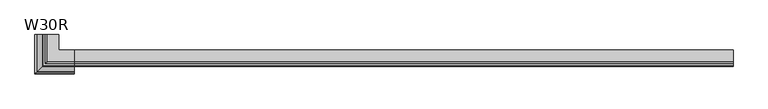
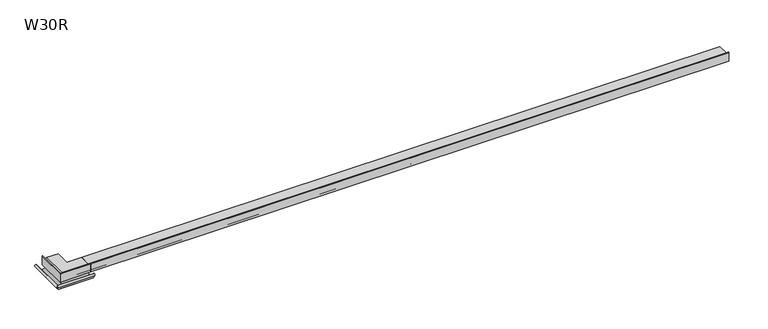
"""IFC4 building model written with IfcOpenShell, lengths in millimetres: proxy geometry, W30R Profil okapowy prosty z rynną : W30R."""

from ifc_helpers import new_model, si_unit, point, frame, frame_2d, origin, place, context, project, spatial, polyline, circle_curve, ellipse_curve, trimmed, segment, composite_curve, outline, extrude, source, transform, mapped, element, save
from ifc_brep_helpers import plane_surface, cylinder_surface, revolved_surface, advanced_brep


def w30r_1e472981(model_context):
    return source(origin(), model_context, "Body", "SolidModel", [
        advanced_brep(
        [(220.0, -43.2400001, -67.3590487), (220.0, 31.76, -67.3590487), (220.0, 33.76, -48.466163), (220.0, 28.3457864, -49.051942), (220.0, 23.0301532, -54.3675752), (220.0, 23.73726, -55.074682), (220.0, 28.8610307, -49.9509113), (220.0, 32.6506561, -49.4483099), (220.0, 30.7599916, -67.3415731), (220.0, -42.2400118, -67.3415731), (220.0, -42.2400118, -57.8161631), (220.0, -52.4076128, -63.5045042), (220.0, -52.4076128, -62.3703774), (220.0, -43.2400001, -57.765002), (-43.2400001, 220.0, -67.3590487), (-43.2400001, 220.0, -57.765002), (-52.4076128, 220.0, -62.3703774), (-52.4076128, 220.0, -63.5045042), (-42.2400118, 220.0, -57.8161631), (-42.2400118, 220.0, -67.3415731), (30.7599916, 220.0, -67.3415731), (32.6506561, 220.0, -49.4483099), (28.8610307, 220.0, -49.9509113), (23.73726, 220.0, -55.074682), (23.0301532, 220.0, -54.3675752), (28.3457864, 220.0, -49.051942), (33.76, 220.0, -48.466163), (31.76, 220.0, -67.3590487), (-43.2400001, -43.2400001, -67.3590487), (31.76, 31.76, -67.3590487), (33.76, 33.76, -48.466163), (28.3457864, 28.3457864, -49.051942), (23.0301532, 23.0301532, -54.3675752), (23.73726, 23.73726, -55.074682), (28.8610307, 28.8610307, -49.9509113), (32.6506561, 32.6506561, -49.4483099), (30.7599916, 30.7599916, -67.3415731), (-42.2400118, -42.2400118, -67.3415731), (-42.2400118, -42.2400118, -57.8161631), (-52.4076128, -52.4076128, -63.5045042), (-52.4076128, -52.4076128, -62.3703774), (-43.2400001, -43.2400001, -57.765002)],
        [
            (0, 1, circle_curve(frame((220.0, -5.74, -67.3590487), z_axis=(1.0, 0.0, 0.0), x_axis=(0.0, -1.0, 0.0)), 37.5)),
            (1, 2),
            (2, 3, circle_curve(frame((220.0, 32.9206631, -66.0223975), z_axis=(1.0, 0.0, 0.0), x_axis=(0.0, -1.0, 0.0)), 17.5762868)),
            (3, 4),
            (4, 5),
            (5, 6),
            (6, 7, circle_curve(frame((220.0, 32.9206631, -66.0223975), z_axis=(-1.0, 0.0, 0.0), x_axis=(0.0, -1.0, 0.0)), 16.5762868)),
            (7, 8),
            (8, 9, circle_curve(frame((220.0, -5.7400101, -67.3415731), z_axis=(-1.0, 0.0, 0.0), x_axis=(0.0, -1.0, 0.0)), 36.5000017)),
            (9, 10),
            (10, 11, circle_curve(frame((220.0, -49.3055965, -57.118002), z_axis=(1.0, 0.0, 0.0), x_axis=(0.0, -1.0, 0.0)), 7.0999941)),
            (11, 12),
            (12, 13, circle_curve(frame((220.0, -49.305591, -57.1180003), z_axis=(-1.0, 0.0, 0.0), x_axis=(0.0, -1.0, 0.0)), 6.1000004)),
            (13, 0),
            (14, 15),
            (15, 16, circle_curve(frame((-49.305591, 220.0, -57.1180003), z_axis=(0.0, -1.0, 0.0), x_axis=(-1.0, 0.0, 0.0)), 6.1000004)),
            (16, 17),
            (17, 18, circle_curve(frame((-49.3055965, 220.0, -57.118002), z_axis=(0.0, 1.0, 0.0), x_axis=(-1.0, 0.0, 0.0)), 7.0999941)),
            (18, 19),
            (19, 20, circle_curve(frame((-5.7400101, 220.0, -67.3415731), z_axis=(0.0, -1.0, 0.0), x_axis=(-1.0, 0.0, 0.0)), 36.5000017)),
            (20, 21),
            (21, 22, circle_curve(frame((32.9206631, 220.0, -66.0223975), z_axis=(0.0, -1.0, 0.0), x_axis=(-1.0, 0.0, 0.0)), 16.5762868)),
            (22, 23),
            (23, 24),
            (24, 25),
            (25, 26, circle_curve(frame((32.9206631, 220.0, -66.0223975), z_axis=(0.0, 1.0, 0.0), x_axis=(-1.0, 0.0, 0.0)), 17.5762868)),
            (26, 27),
            (27, 14, circle_curve(frame((-5.74, 220.0, -67.3590487), z_axis=(0.0, 1.0, 0.0), x_axis=(-1.0, 0.0, 0.0)), 37.5)),
            (0, 28),
            (28, 29, ellipse_curve(frame((-5.74, -5.74, -67.3590487), z_axis=(0.7071067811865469, -0.7071067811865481, 0.0), x_axis=(0.7071067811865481, 0.7071067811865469, 0.0)), 53.0330086, 37.5)),
            (29, 1),
            (29, 30),
            (30, 2),
            (30, 31, ellipse_curve(frame((32.9206631, 32.9206631, -66.0223975), z_axis=(0.7071067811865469, -0.7071067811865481, 0.0), x_axis=(0.7071067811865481, 0.7071067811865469, 0.0)), 24.8566232, 17.5762868)),
            (31, 3),
            (31, 32),
            (32, 4),
            (32, 33),
            (33, 5),
            (33, 34),
            (34, 6),
            (34, 35, ellipse_curve(frame((32.9206631, 32.9206631, -66.0223975), z_axis=(-0.7071067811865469, 0.7071067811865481, 0.0), x_axis=(-0.7071067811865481, -0.7071067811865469, 0.0)), 23.4424096, 16.5762868)),
            (35, 7),
            (35, 36),
            (36, 8),
            (36, 37, ellipse_curve(frame((-5.7400101, -5.7400101, -67.3415731), z_axis=(-0.7071067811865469, 0.7071067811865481, 0.0), x_axis=(-0.7071067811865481, -0.7071067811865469, 0.0)), 51.6187974, 36.5000017)),
            (37, 9),
            (37, 38),
            (38, 10),
            (38, 39, ellipse_curve(frame((-49.3055965, -49.3055965, -57.118002), z_axis=(0.7071067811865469, -0.7071067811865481, 0.0), x_axis=(0.7071067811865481, 0.7071067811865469, 0.0)), 10.0409079, 7.0999941)),
            (39, 11),
            (39, 40),
            (40, 12),
            (40, 41, ellipse_curve(frame((-49.305591, -49.305591, -57.1180003), z_axis=(-0.7071067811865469, 0.7071067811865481, 0.0), x_axis=(-0.7071067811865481, -0.7071067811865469, 0.0)), 8.6267032, 6.1000004)),
            (41, 13),
            (41, 28),
            (28, 14),
            (27, 29),
            (26, 30),
            (25, 31),
            (24, 32),
            (23, 33),
            (22, 34),
            (21, 35),
            (20, 36),
            (19, 37),
            (18, 38),
            (17, 39),
            (16, 40),
            (15, 41),
        ],
        [
            plane_surface(frame((220.0, 0.0, 0.0), z_axis=(1.0, 0.0, 0.0), x_axis=(0.0, 0.0, 1.0))),
            plane_surface(frame((0.0, 220.0, 0.0), z_axis=(0.0, 1.0, 0.0), x_axis=(0.0, 0.0, 1.0))),
            cylinder_surface(frame((220.0, -5.74, -67.3590487), z_axis=(1.0, 0.0, 0.0), x_axis=(0.0, -1.0, 0.0)), 37.5),
            plane_surface(frame((220.0, 31.76, -67.3590487), z_axis=(0.0, 0.9944434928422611, -0.10527174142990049), x_axis=(-1.0, 0.0, 0.0))),
            cylinder_surface(frame((220.0, 32.9206631, -66.0223975), z_axis=(1.0, 0.0, 0.0), x_axis=(0.0, -1.0, 0.0)), 17.5762868),
            plane_surface(frame((220.0, 28.3457864, -49.051942), z_axis=(0.0, -0.7071067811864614, 0.7071067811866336), x_axis=(-1.0, 0.0, 0.0))),
            plane_surface(frame((220.0, 23.0301532, -54.3675752), z_axis=(0.0, -0.7071067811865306, -0.7071067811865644), x_axis=(-1.0, 0.0, 0.0))),
            plane_surface(frame((220.0, 23.73726, -55.074682), z_axis=(0.0, 0.7071067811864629, -0.7071067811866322), x_axis=(-1.0, 0.0, 0.0))),
            revolved_surface(polyline([(16.344376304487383, 16.3443763, -66.0223975), (220.0, 16.3443763, -66.0223975)]), (220.0, 32.9206631, -66.0223975), (-1.0, 0.0, 0.0)),
            plane_surface(frame((220.0, 32.6506561, -49.4483099), z_axis=(0.0, -0.994463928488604, 0.10507851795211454), x_axis=(-1.0, 0.0, 0.0))),
            revolved_surface(polyline([(-42.24001179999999, -42.2400118, -67.3415731), (220.0, -42.2400118, -67.3415731)]), (220.0, -5.7400101, -67.3415731), (-1.0, 0.0, 0.0)),
            plane_surface(frame((220.0, -42.2400118, -67.3415731), z_axis=(0.0, 1.0, 0.0), x_axis=(-1.0, 0.0, 0.0))),
            cylinder_surface(frame((220.0, -49.3055965, -57.118002), z_axis=(1.0, 0.0, 0.0), x_axis=(0.0, -1.0, 0.0)), 7.0999941),
            plane_surface(frame((220.0, -52.4076128, -63.5045042), z_axis=(0.0, 1.0, 0.0), x_axis=(-1.0, 0.0, 0.0))),
            revolved_surface(polyline([(-55.40559133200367, -55.4055914, -57.1180003), (220.0, -55.4055914, -57.1180003)]), (220.0, -49.305591, -57.1180003), (-1.0, 0.0, 0.0)),
            plane_surface(frame((220.0, -43.2400001, -57.765002), z_axis=(0.0, -1.0, 0.0), x_axis=(-1.0, 0.0, 0.0))),
            cylinder_surface(frame((-5.74, 0.0, -67.3590487), z_axis=(0.0, -1.0, 0.0), x_axis=(-1.0, 0.0, 0.0)), 37.5),
            plane_surface(frame((31.76, 31.76, -67.3590487), z_axis=(0.9944434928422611, 0.0, -0.10527174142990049), x_axis=(0.0, 1.0, 0.0))),
            cylinder_surface(frame((32.9206631, 0.0, -66.0223975), z_axis=(0.0, -1.0, 0.0), x_axis=(-1.0, 0.0, 0.0)), 17.5762868),
            plane_surface(frame((28.3457864, 28.3457864, -49.051942), z_axis=(-0.7071067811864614, 0.0, 0.7071067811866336), x_axis=(0.0, 1.0, 0.0))),
            plane_surface(frame((23.0301532, 23.0301532, -54.3675752), z_axis=(-0.7071067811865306, 0.0, -0.7071067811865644), x_axis=(0.0, 1.0, 0.0))),
            plane_surface(frame((23.73726, 23.73726, -55.074682), z_axis=(0.7071067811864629, 0.0, -0.7071067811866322), x_axis=(0.0, 1.0, 0.0))),
            revolved_surface(polyline([(16.3443763, 220.0, -66.0223975), (16.3443763, 16.34437630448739, -66.0223975)]), (32.9206631, 0.0, -66.0223975), (0.0, 1.0, 0.0)),
            plane_surface(frame((32.6506561, 32.6506561, -49.4483099), z_axis=(-0.994463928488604, 0.0, 0.10507851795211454), x_axis=(0.0, 1.0, 0.0))),
            revolved_surface(polyline([(-42.2400118, 220.0, -67.3415731), (-42.2400118, -42.2400118, -67.3415731)]), (-5.7400101, 0.0, -67.3415731), (0.0, 1.0, 0.0)),
            plane_surface(frame((-42.2400118, -42.2400118, -67.3415731), z_axis=(1.0, 0.0, 0.0), x_axis=(0.0, 1.0, 0.0))),
            cylinder_surface(frame((-49.3055965, 0.0, -57.118002), z_axis=(0.0, -1.0, 0.0), x_axis=(-1.0, 0.0, 0.0)), 7.0999941),
            plane_surface(frame((-52.4076128, -52.4076128, -63.5045042), z_axis=(1.0, 0.0, 0.0), x_axis=(0.0, 1.0, 0.0))),
            revolved_surface(polyline([(-55.4055914, 220.0, -57.1180003), (-55.4055914, -55.40559133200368, -57.1180003)]), (-49.305591, 0.0, -57.1180003), (0.0, 1.0, 0.0)),
            plane_surface(frame((-43.2400001, -43.2400001, -57.765002), z_axis=(-1.0, 0.0, 0.0), x_axis=(0.0, 1.0, 0.0))),
        ],
        [
            (0, [[1, 2, 3, 4, 5, 6, 7, 8, 9, 10, 11, 12, 13, 14]]),
            (1, [[15, 16, 17, 18, 19, 20, 21, 22, 23, 24, 25, 26, 27, 28]]),
            (2, [[-1, 29, 30, 31]]),
            (3, [[-2, -31, 32, 33]]),
            (4, [[-3, -33, 34, 35]]),
            (5, [[-4, -35, 36, 37]]),
            (6, [[-5, -37, 38, 39]]),
            (7, [[-6, -39, 40, 41]]),
            (8, [[-7, -41, 42, 43]]),
            (9, [[-8, -43, 44, 45]]),
            (10, [[-9, -45, 46, 47]]),
            (11, [[-10, -47, 48, 49]]),
            (12, [[-11, -49, 50, 51]]),
            (13, [[-12, -51, 52, 53]]),
            (14, [[-13, -53, 54, 55]]),
            (15, [[-14, -55, 56, -29]]),
            (16, [[-30, 57, -28, 58]]),
            (17, [[-32, -58, -27, 59]]),
            (18, [[-34, -59, -26, 60]]),
            (19, [[-36, -60, -25, 61]]),
            (20, [[-38, -61, -24, 62]]),
            (21, [[-40, -62, -23, 63]]),
            (22, [[-42, -63, -22, 64]]),
            (23, [[-44, -64, -21, 65]]),
            (24, [[-46, -65, -20, 66]]),
            (25, [[-48, -66, -19, 67]]),
            (26, [[-50, -67, -18, 68]]),
            (27, [[-52, -68, -17, 69]]),
            (28, [[-54, -69, -16, 70]]),
            (29, [[-56, -70, -15, -57]]),
        ],
    ),
        advanced_brep(
        [(220.0, 41.76, -66.726163), (220.0, 43.76, -66.726163), (220.0, 43.76, -63.126163), (220.0, 48.96, -63.126163), (220.0, 48.96, -74.326163), (220.0, 43.76, -74.326163), (220.0, 43.76, -70.726163), (220.0, 41.76, -70.726163), (220.0, 41.76, -97.190163), (220.0, 43.04, -97.190163), (220.0, 43.04, -75.526163), (220.0, 50.32, -75.526163), (220.0, 50.32, -61.926163), (220.0, 43.12, -61.926163), (220.0, 43.12, -25.926163), (220.0, 111.68, -25.926163), (220.0, 111.68, -24.006163), (220.0, 31.36, -24.006163), (220.0, 17.76, -37.606163), (220.0, 17.76, -49.846163), (220.0, -0.8, -49.846163), (220.0, -0.8, -2.2327357), (220.0, 0.0, -1.4327357), (220.0, 0.0, 0.0), (220.0, -2.24, -2.24), (220.0, -2.24, -66.416302), (220.0, -1.04, -65.216302), (220.0, -1.04, -51.766163), (220.0, 17.76, -51.766163), (220.0, 17.76, -55.0930368), (220.0, 19.68, -55.0930368), (220.0, 19.68, -37.606163), (220.0, 31.36, -25.926163), (220.0, 41.76, -25.926163), (41.76, 220.0, -66.726163), (41.76, 220.0, -25.926163), (31.36, 220.0, -25.926163), (19.68, 220.0, -37.606163), (19.68, 220.0, -55.0930368), (17.76, 220.0, -55.0930368), (17.76, 220.0, -51.766163), (-1.04, 220.0, -51.766163), (-1.04, 220.0, -65.216302), (-2.24, 220.0, -66.416302), (-2.24, 220.0, -2.24), (0.0, 220.0, 0.0), (0.0, 220.0, -1.4327357), (-0.8, 220.0, -2.2327357), (-0.8, 220.0, -49.846163), (17.76, 220.0, -49.846163), (17.76, 220.0, -37.606163), (31.36, 220.0, -24.006163), (111.68, 220.0, -24.006163), (111.68, 220.0, -25.926163), (43.12, 220.0, -25.926163), (43.12, 220.0, -61.926163), (50.32, 220.0, -61.926163), (50.32, 220.0, -75.526163), (43.04, 220.0, -75.526163), (43.04, 220.0, -97.190163), (41.76, 220.0, -97.190163), (41.76, 220.0, -70.726163), (43.76, 220.0, -70.726163), (43.76, 220.0, -74.326163), (48.96, 220.0, -74.326163), (48.96, 220.0, -63.126163), (43.76, 220.0, -63.126163), (43.76, 220.0, -66.726163), (50.32, 50.32, -61.926163), (43.12, 43.12, -61.926163), (-2.24, -2.24, -66.416302), (-1.04, -1.04, -65.216302), (43.12, 43.12, -25.926163), (111.68, 111.68, -25.926163), (111.68, 111.68, -24.006163), (41.76, 41.76, -70.726163), (41.76, 41.76, -97.190163), (43.04, 43.04, -97.190163), (43.04, 43.04, -75.526163), (43.76, 43.76, -74.326163), (43.76, 43.76, -70.726163), (48.96, 48.96, -74.326163), (48.96, 48.96, -63.126163), (43.76, 43.76, -63.126163), (43.76, 43.76, -66.726163), (41.76, 41.76, -66.726163), (50.32, 50.32, -75.526163), (31.36, 31.36, -24.006163), (17.76, 17.76, -37.606163), (17.76, 17.76, -49.846163), (-0.8, -0.8, -49.846163), (-0.8, -0.8, -2.2327357), (0.0, 0.0, -1.4327357), (0.0, 0.0, 0.0), (-2.24, -2.24, -2.24), (-1.04, -1.04, -51.766163), (17.76, 17.76, -51.766163), (17.76, 17.76, -55.0930368), (19.68, 19.68, -55.0930368), (19.68, 19.68, -37.606163), (31.36, 31.36, -25.926163), (41.76, 41.76, -25.926163)],
        [
            (0, 1),
            (1, 2),
            (2, 3),
            (3, 4),
            (4, 5),
            (5, 6),
            (6, 7),
            (7, 8),
            (8, 9),
            (9, 10),
            (10, 11),
            (11, 12),
            (12, 13),
            (13, 14),
            (14, 15),
            (15, 16),
            (16, 17),
            (17, 18, circle_curve(frame((220.0, 31.36, -37.606163), z_axis=(1.0, 0.0, 0.0), x_axis=(0.0, -1.0, 0.0)), 13.6)),
            (18, 19),
            (19, 20),
            (20, 21),
            (21, 22, circle_curve(frame((220.0, 0.0, -2.2327357), z_axis=(-1.0, 0.0, 0.0), x_axis=(0.0, -1.0, 0.0)), 0.8)),
            (22, 23),
            (23, 24, circle_curve(frame((220.0, 0.0, -2.24), z_axis=(1.0, 0.0, 0.0), x_axis=(0.0, -1.0, 0.0)), 2.24)),
            (24, 25),
            (25, 26),
            (26, 27),
            (27, 28),
            (28, 29),
            (29, 30),
            (30, 31),
            (31, 32, circle_curve(frame((220.0, 31.36, -37.606163), z_axis=(-1.0, 0.0, 0.0), x_axis=(0.0, -1.0, 0.0)), 11.68)),
            (32, 33),
            (33, 0),
            (34, 35),
            (35, 36),
            (36, 37, circle_curve(frame((31.36, 220.0, -37.606163), z_axis=(0.0, -1.0, 0.0), x_axis=(-1.0, 0.0, 0.0)), 11.68)),
            (37, 38),
            (38, 39),
            (39, 40),
            (40, 41),
            (41, 42),
            (42, 43),
            (43, 44),
            (44, 45, circle_curve(frame((0.0, 220.0, -2.24), z_axis=(0.0, 1.0, 0.0), x_axis=(-1.0, 0.0, 0.0)), 2.24)),
            (45, 46),
            (46, 47, circle_curve(frame((0.0, 220.0, -2.2327357), z_axis=(0.0, -1.0, 0.0), x_axis=(-1.0, 0.0, 0.0)), 0.8)),
            (47, 48),
            (48, 49),
            (49, 50),
            (50, 51, circle_curve(frame((31.36, 220.0, -37.606163), z_axis=(0.0, 1.0, 0.0), x_axis=(-1.0, 0.0, 0.0)), 13.6)),
            (51, 52),
            (52, 53),
            (53, 54),
            (54, 55),
            (55, 56),
            (56, 57),
            (57, 58),
            (58, 59),
            (59, 60),
            (60, 61),
            (61, 62),
            (62, 63),
            (63, 64),
            (64, 65),
            (65, 66),
            (66, 67),
            (67, 34),
            (12, 68),
            (68, 56),
            (55, 69),
            (69, 13),
            (25, 70),
            (70, 71),
            (71, 26),
            (14, 72),
            (72, 54),
            (53, 73),
            (73, 15),
            (73, 74),
            (74, 16),
            (69, 72),
            (7, 75),
            (75, 76),
            (76, 8),
            (76, 60),
            (59, 77),
            (77, 9),
            (77, 78),
            (78, 10),
            (5, 79),
            (79, 80),
            (80, 6),
            (80, 62),
            (61, 75),
            (4, 81),
            (81, 64),
            (63, 79),
            (3, 82),
            (82, 81),
            (2, 83),
            (83, 66),
            (65, 82),
            (1, 84),
            (84, 83),
            (70, 43),
            (42, 71),
            (52, 74),
            (58, 78),
            (84, 67),
            (0, 85),
            (85, 34),
            (57, 86),
            (86, 11),
            (86, 68),
            (51, 87),
            (87, 17),
            (87, 88, ellipse_curve(frame((31.36, 31.36, -37.606163), z_axis=(0.7071067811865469, -0.7071067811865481, 0.0), x_axis=(0.7071067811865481, 0.7071067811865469, 0.0)), 19.2333044, 13.6)),
            (88, 18),
            (88, 89),
            (89, 19),
            (89, 49),
            (48, 90),
            (90, 20),
            (90, 91),
            (91, 21),
            (91, 92, ellipse_curve(frame((0.0, 0.0, -2.2327357), z_axis=(-0.7071067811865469, 0.7071067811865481, 0.0), x_axis=(-0.7071067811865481, -0.7071067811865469, 0.0)), 1.1313708, 0.8)),
            (92, 22),
            (92, 93),
            (93, 23),
            (93, 94, ellipse_curve(frame((0.0, 0.0, -2.24), z_axis=(0.7071067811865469, -0.7071067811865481, 0.0), x_axis=(0.7071067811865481, 0.7071067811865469, 0.0)), 3.1678384, 2.24)),
            (94, 24),
            (94, 70),
            (71, 95),
            (95, 27),
            (95, 41),
            (40, 96),
            (96, 28),
            (96, 97),
            (97, 29),
            (97, 39),
            (38, 98),
            (98, 30),
            (98, 99),
            (99, 31),
            (99, 100, ellipse_curve(frame((31.36, 31.36, -37.606163), z_axis=(-0.7071067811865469, 0.7071067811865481, 0.0), x_axis=(-0.7071067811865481, -0.7071067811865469, 0.0)), 16.5180144, 11.68)),
            (100, 32),
            (100, 36),
            (35, 101),
            (101, 33),
            (101, 85),
            (50, 88),
            (47, 91),
            (46, 92),
            (45, 93),
            (44, 94),
            (37, 99),
        ],
        [
            plane_surface(frame((220.0, 0.0, 0.0), z_axis=(1.0, 0.0, 0.0), x_axis=(0.0, 0.0, 1.0))),
            plane_surface(frame((0.0, 220.0, 0.0), z_axis=(0.0, 1.0, 0.0), x_axis=(0.0, 0.0, 1.0))),
            plane_surface(frame((220.0, 50.32, -61.926163), z_axis=(0.0, 0.0, 1.0), x_axis=(-1.0, 0.0, 0.0))),
            plane_surface(frame((220.0, -2.24, -66.416302), z_axis=(0.0, 0.7071067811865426, -0.7071067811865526), x_axis=(-1.0, 0.0, 0.0))),
            plane_surface(frame((220.0, 43.12, -25.926163), z_axis=(0.0, 0.0, -1.0), x_axis=(-1.0, 0.0, 0.0))),
            plane_surface(frame((220.0, 111.68, -25.926163), z_axis=(0.0, 1.0, 0.0), x_axis=(-1.0, 0.0, 0.0))),
            plane_surface(frame((220.0, 43.12, -61.926163), z_axis=(0.0, 1.0, 0.0), x_axis=(-1.0, 0.0, 0.0))),
            plane_surface(frame((220.0, 41.76, -70.726163), z_axis=(0.0, -1.0, 0.0), x_axis=(-1.0, 0.0, 0.0))),
            plane_surface(frame((220.0, 41.76, -97.190163), z_axis=(0.0, 0.0, -1.0), x_axis=(-1.0, 0.0, 0.0))),
            plane_surface(frame((220.0, 43.04, -97.190163), z_axis=(0.0, 1.0, 0.0), x_axis=(-1.0, 0.0, 0.0))),
            plane_surface(frame((220.0, 43.76, -74.326163), z_axis=(0.0, 1.0, 0.0), x_axis=(-1.0, 0.0, 0.0))),
            plane_surface(frame((220.0, 43.76, -70.726163), z_axis=(0.0, 0.0, 1.0), x_axis=(-1.0, 0.0, 0.0))),
            plane_surface(frame((220.0, 48.96, -74.326163), z_axis=(0.0, 0.0, 1.0), x_axis=(-1.0, 0.0, 0.0))),
            plane_surface(frame((220.0, 48.96, -63.126163), z_axis=(0.0, -1.0, 0.0), x_axis=(-1.0, 0.0, 0.0))),
            plane_surface(frame((220.0, 43.76, -63.126163), z_axis=(0.0, 0.0, -1.0), x_axis=(-1.0, 0.0, 0.0))),
            plane_surface(frame((220.0, 43.76, -66.726163), z_axis=(0.0, 1.0, 0.0), x_axis=(-1.0, 0.0, 0.0))),
            plane_surface(frame((-2.24, -2.24, -66.416302), z_axis=(0.7071067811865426, 0.0, -0.7071067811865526), x_axis=(0.0, 1.0, 0.0))),
            plane_surface(frame((111.68, 111.68, -25.926163), z_axis=(1.0, 0.0, 0.0), x_axis=(0.0, 1.0, 0.0))),
            plane_surface(frame((43.12, 43.12, -61.926163), z_axis=(1.0, 0.0, 0.0), x_axis=(0.0, 1.0, 0.0))),
            plane_surface(frame((41.76, 41.76, -70.726163), z_axis=(-1.0, 0.0, 0.0), x_axis=(0.0, 1.0, 0.0))),
            plane_surface(frame((43.04, 43.04, -97.190163), z_axis=(1.0, 0.0, 0.0), x_axis=(0.0, 1.0, 0.0))),
            plane_surface(frame((48.96, 48.96, -63.126163), z_axis=(-1.0, 0.0, 0.0), x_axis=(0.0, 1.0, 0.0))),
            plane_surface(frame((43.76, 43.76, -66.726163), z_axis=(1.0, 0.0, 0.0), x_axis=(0.0, 1.0, 0.0))),
            plane_surface(frame((43.76, 43.76, -74.326163), z_axis=(1.0, 0.0, 0.0), x_axis=(0.0, 1.0, 0.0))),
            plane_surface(frame((220.0, 41.76, -66.726163), z_axis=(0.0, 0.0, -1.0), x_axis=(-1.0, 0.0, 0.0))),
            plane_surface(frame((220.0, 43.04, -75.526163), z_axis=(0.0, 0.0, -1.0), x_axis=(-1.0, 0.0, 0.0))),
            plane_surface(frame((220.0, 50.32, -75.526163), z_axis=(0.0, 1.0, 0.0), x_axis=(-1.0, 0.0, 0.0))),
            plane_surface(frame((220.0, 111.68, -24.006163), z_axis=(0.0, 0.0, 1.0), x_axis=(-1.0, 0.0, 0.0))),
            cylinder_surface(frame((220.0, 31.36, -37.606163), z_axis=(1.0, 0.0, 0.0), x_axis=(0.0, -1.0, 0.0)), 13.6),
            plane_surface(frame((220.0, 17.76, -37.606163), z_axis=(0.0, -1.0, 0.0), x_axis=(-1.0, 0.0, 0.0))),
            plane_surface(frame((220.0, 17.76, -49.846163), z_axis=(0.0, 0.0, 1.0), x_axis=(-1.0, 0.0, 0.0))),
            plane_surface(frame((220.0, -0.8, -4.4219732), z_axis=(0.0, 1.0, 0.0), x_axis=(-1.0, 0.0, 0.0))),
            revolved_surface(polyline([(-0.8000000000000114, -0.8, -2.2327357), (220.0, -0.8, -2.2327357)]), (220.0, 0.0, -2.2327357), (-1.0, 0.0, 0.0)),
            plane_surface(frame((220.0, 0.0, -1.4327357), z_axis=(0.0, 1.0, 0.0), x_axis=(-1.0, 0.0, 0.0))),
            cylinder_surface(frame((220.0, 0.0, -2.24), z_axis=(1.0, 0.0, 0.0), x_axis=(0.0, -1.0, 0.0)), 2.24),
            plane_surface(frame((220.0, -2.24, -2.24), z_axis=(0.0, -1.0, 0.0), x_axis=(-1.0, 0.0, 0.0))),
            plane_surface(frame((220.0, -1.04, -65.216302), z_axis=(0.0, 1.0, 0.0), x_axis=(-1.0, 0.0, 0.0))),
            plane_surface(frame((220.0, -1.04, -51.766163), z_axis=(0.0, 0.0, -1.0), x_axis=(-1.0, 0.0, 0.0))),
            plane_surface(frame((220.0, 17.76, -51.766163), z_axis=(0.0, -1.0, 0.0), x_axis=(-1.0, 0.0, 0.0))),
            plane_surface(frame((220.0, 17.76, -55.0930368), z_axis=(0.0, 0.0, -1.0), x_axis=(-1.0, 0.0, 0.0))),
            plane_surface(frame((220.0, 19.68, -55.0930368), z_axis=(0.0, 1.0, 0.0), x_axis=(-1.0, 0.0, 0.0))),
            revolved_surface(polyline([(19.680000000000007, 19.68, -37.606163), (220.0, 19.68, -37.606163)]), (220.0, 31.36, -37.606163), (-1.0, 0.0, 0.0)),
            plane_surface(frame((220.0, 31.36, -25.926163), z_axis=(0.0, 0.0, -1.0), x_axis=(-1.0, 0.0, 0.0))),
            plane_surface(frame((220.0, 41.76, -25.926163), z_axis=(0.0, -1.0, 0.0), x_axis=(-1.0, 0.0, 0.0))),
            plane_surface(frame((50.32, 50.32, -75.526163), z_axis=(1.0, 0.0, 0.0), x_axis=(0.0, 1.0, 0.0))),
            cylinder_surface(frame((31.36, 0.0, -37.606163), z_axis=(0.0, -1.0, 0.0), x_axis=(-1.0, 0.0, 0.0)), 13.6),
            plane_surface(frame((17.76, 17.76, -37.606163), z_axis=(-1.0, 0.0, 0.0), x_axis=(0.0, 1.0, 0.0))),
            plane_surface(frame((-0.8, -0.8, -4.4219732), z_axis=(1.0, 0.0, 0.0), x_axis=(0.0, 1.0, 0.0))),
            revolved_surface(polyline([(-0.8, 220.0, -2.2327357), (-0.8, -0.8, -2.2327357)]), (0.0, 0.0, -2.2327357), (0.0, 1.0, 0.0)),
            plane_surface(frame((0.0, 0.0, -1.4327357), z_axis=(1.0, 0.0, 0.0), x_axis=(0.0, 1.0, 0.0))),
            cylinder_surface(frame((0.0, 0.0, -2.24), z_axis=(0.0, -1.0, 0.0), x_axis=(-1.0, 0.0, 0.0)), 2.24),
            plane_surface(frame((-2.24, -2.24, -2.24), z_axis=(-1.0, 0.0, 0.0), x_axis=(0.0, 1.0, 0.0))),
            plane_surface(frame((-1.04, -1.04, -65.216302), z_axis=(1.0, 0.0, 0.0), x_axis=(0.0, 1.0, 0.0))),
            plane_surface(frame((17.76, 17.76, -51.766163), z_axis=(-1.0, 0.0, 0.0), x_axis=(0.0, 1.0, 0.0))),
            plane_surface(frame((19.68, 19.68, -55.0930368), z_axis=(1.0, 0.0, 0.0), x_axis=(0.0, 1.0, 0.0))),
            revolved_surface(polyline([(19.68, 220.0, -37.606163), (19.68, 19.68, -37.606163)]), (31.36, 0.0, -37.606163), (0.0, 1.0, 0.0)),
            plane_surface(frame((41.76, 41.76, -25.926163), z_axis=(-1.0, 0.0, 0.0), x_axis=(0.0, 1.0, 0.0))),
        ],
        [
            (0, [[1, 2, 3, 4, 5, 6, 7, 8, 9, 10, 11, 12, 13, 14, 15, 16, 17, 18, 19, 20, 21, 22, 23, 24, 25, 26, 27, 28, 29, 30, 31, 32, 33, 34]]),
            (1, [[35, 36, 37, 38, 39, 40, 41, 42, 43, 44, 45, 46, 47, 48, 49, 50, 51, 52, 53, 54, 55, 56, 57, 58, 59, 60, 61, 62, 63, 64, 65, 66, 67, 68]]),
            (2, [[-13, 69, 70, -56, 71, 72]]),
            (3, [[-26, 73, 74, 75]]),
            (4, [[-15, 76, 77, -54, 78, 79]]),
            (5, [[-16, -79, 80, 81]]),
            (6, [[-14, -72, 82, -76]]),
            (7, [[-8, 83, 84, 85]]),
            (8, [[-9, -85, 86, -60, 87, 88]]),
            (9, [[-10, -88, 89, 90]]),
            (10, [[-6, 91, 92, 93]]),
            (11, [[-7, -93, 94, -62, 95, -83]]),
            (12, [[-5, 96, 97, -64, 98, -91]]),
            (13, [[-4, 99, 100, -96]]),
            (14, [[-3, 101, 102, -66, 103, -99]]),
            (15, [[-2, 104, 105, -101]]),
            (16, [[-74, 106, -43, 107]]),
            (17, [[-80, -78, -53, 108]]),
            (18, [[-82, -71, -55, -77]]),
            (19, [[-84, -95, -61, -86]]),
            (20, [[-89, -87, -59, 109]]),
            (21, [[-100, -103, -65, -97]]),
            (22, [[-105, 110, -67, -102]]),
            (23, [[-92, -98, -63, -94]]),
            (24, [[-1, 111, 112, -68, -110, -104]]),
            (25, [[-11, -90, -109, -58, 113, 114]]),
            (26, [[-12, -114, 115, -69]]),
            (27, [[-17, -81, -108, -52, 116, 117]]),
            (28, [[-18, -117, 118, 119]]),
            (29, [[-19, -119, 120, 121]]),
            (30, [[-20, -121, 122, -49, 123, 124]]),
            (31, [[-124, 125, 126, -21]]),
            (32, [[-22, -126, 127, 128]]),
            (33, [[-23, -128, 129, 130]]),
            (34, [[-24, -130, 131, 132]]),
            (35, [[-25, -132, 133, -73]]),
            (36, [[-27, -75, 134, 135]]),
            (37, [[-28, -135, 136, -41, 137, 138]]),
            (38, [[-29, -138, 139, 140]]),
            (39, [[-30, -140, 141, -39, 142, 143]]),
            (40, [[-31, -143, 144, 145]]),
            (41, [[-32, -145, 146, 147]]),
            (42, [[-33, -147, 148, -36, 149, 150]]),
            (43, [[-34, -150, 151, -111]]),
            (44, [[-115, -113, -57, -70]]),
            (45, [[-118, -116, -51, 152]]),
            (46, [[-120, -152, -50, -122]]),
            (47, [[-125, -123, -48, 153]]),
            (48, [[-127, -153, -47, 154]]),
            (49, [[-129, -154, -46, 155]]),
            (50, [[-131, -155, -45, 156]]),
            (51, [[-133, -156, -44, -106]]),
            (52, [[-134, -107, -42, -136]]),
            (53, [[-139, -137, -40, -141]]),
            (54, [[-144, -142, -38, 157]]),
            (55, [[-146, -157, -37, -148]]),
            (56, [[-151, -149, -35, -112]]),
        ],
    ),
        extrude(outline(composite_curve([segment(polyline([(41.76, -66.726163), (41.76, -25.926163), (31.36, -25.926163)]), True, "CONTINUOUS"), segment(trimmed(circle_curve(frame_2d((31.36, -37.606163)), 11.68), [point((31.36, -25.926163))], [point((19.68, -37.606163))], True, "CARTESIAN"), True, "CONTINUOUS"), segment(polyline([(19.68, -37.606163), (19.68, -55.0930368), (17.76, -55.0930368), (17.76, -51.766163), (-1.04, -51.766163), (-1.04, -65.216302), (-2.24, -66.416302), (-2.24, -2.24)]), True, "CONTINUOUS"), segment(trimmed(circle_curve(frame_2d((0.0, -2.24)), 2.24), [point((-2.24, -2.24))], [point((0.0, 0.0))], False, "CARTESIAN"), True, "CONTINUOUS"), segment(polyline([(0.0, 0.0), (0.0, -1.4327357)]), True, "CONTINUOUS"), segment(trimmed(circle_curve(frame_2d((0.0, -2.2327357)), 0.8), [point((0.0, -1.4327357))], [point((-0.8, -2.2327357))], True, "CARTESIAN"), True, "CONTINUOUS"), segment(polyline([(-0.8, -2.2327357), (-0.8, -49.846163), (17.76, -49.846163), (17.76, -37.606163)]), True, "CONTINUOUS"), segment(trimmed(circle_curve(frame_2d((31.36, -37.606163)), 13.6), [point((17.76, -37.606163))], [point((31.36, -24.006163))], False, "CARTESIAN"), True, "CONTINUOUS"), segment(polyline([(31.36, -24.006163), (111.68, -24.006163), (111.68, -25.926163), (43.12, -25.926163), (43.12, -61.926163), (50.32, -61.926163), (50.32, -75.526163), (43.04, -75.526163), (43.04, -97.190163), (41.76, -97.190163), (41.76, -70.726163), (43.76, -70.726163), (43.76, -74.326163), (48.96, -74.326163), (48.96, -63.126163), (43.76, -63.126163), (43.76, -66.726163), (41.76, -66.726163)]), True, "CONTINUOUS")], self_intersect=False)), frame((220.0, 0.0, 0.0), z_axis=(1.0, 0.0, 0.0), x_axis=(0.0, 1.0, 0.0)), (0.0, 0.0, 1.0), 4631.7711746),
    ])


if __name__ == "__main__":
    model = new_model("IFC4")
    model_context = context("Model", 3, world=origin())
    ifc_project = project(units=[si_unit("LENGTHUNIT", "METRE", prefix="MILLI")], contexts=[model_context])
    site = spatial("IfcSite", under=ifc_project)
    building = spatial("IfcBuilding", under=site)
    placement = place(None, origin())
    w30r_shape = w30r_1e472981(model_context)
    element("IfcBuildingElementProxy", 1, Name="W30R Profil okapowy prosty z rynną : W30R", ObjectType="W30R Profil okapowy prosty z rynną : W30R", at=placement, inside=building, context=model_context, shape_type="MappedRepresentation", body=[
        mapped(w30r_shape, transform((0.0, 0.0, 0.0), x_axis=(1.0, 0.0, 0.0), y_axis=(0.0, 1.0, 0.0), z_axis=(0.0, 0.0, 1.0))),
    ])
    save(model, "model.ifc")
